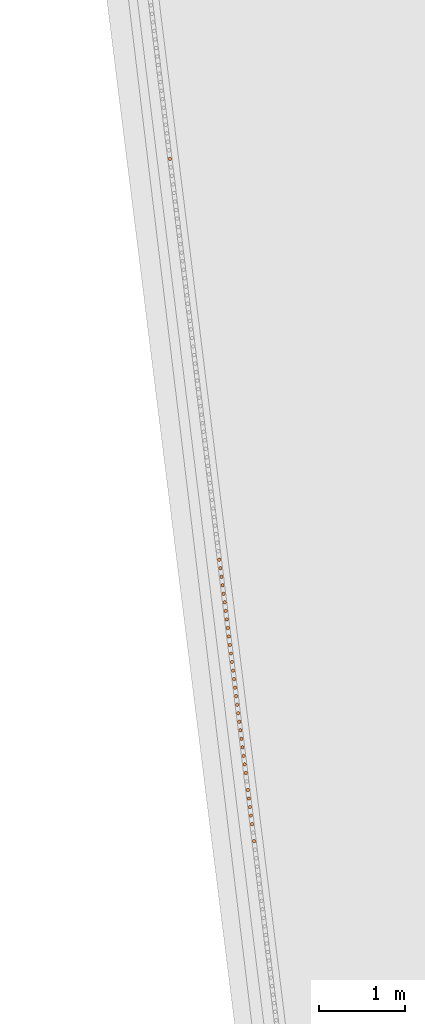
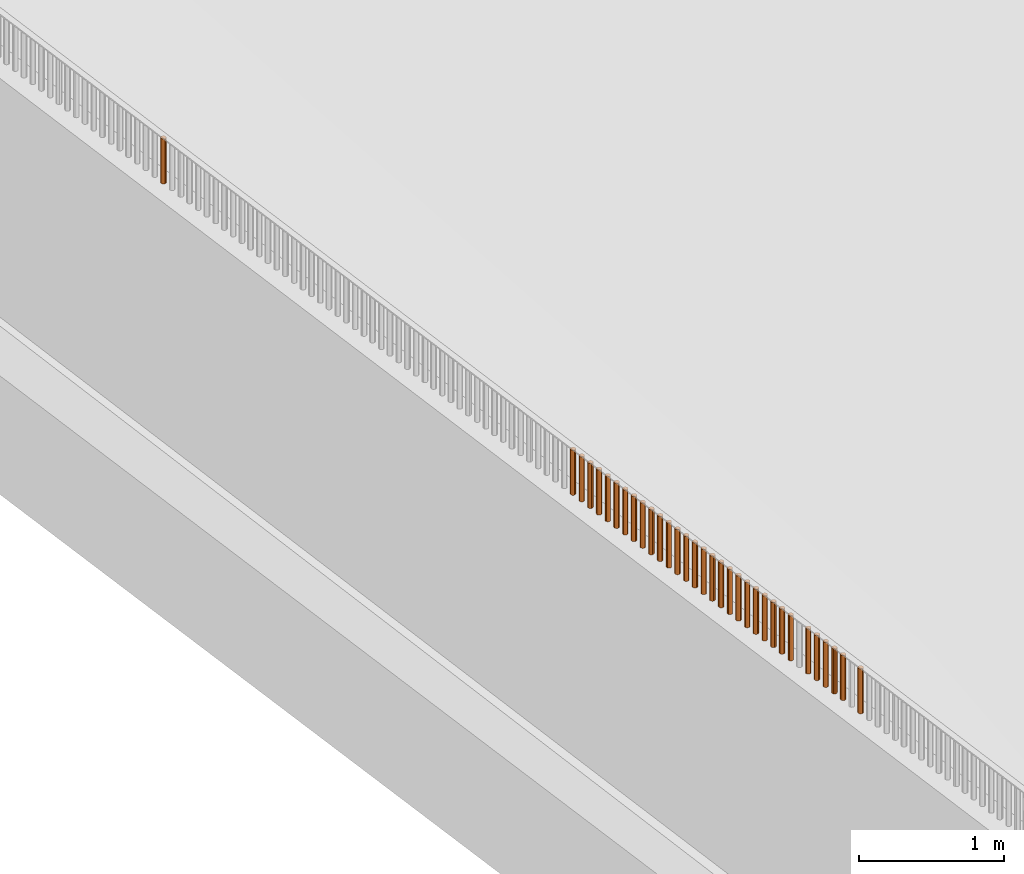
# One storey, part 229 of 1809: 33 proxies, 1 element without a shape of its own.
"""IFC2X3 building model written with IfcOpenShell, lengths in millimetres."""

from ifc_helpers import new_model, entity, si_unit, converted_unit, derived_unit, money_unit, direction, frame, origin_with_axes, place, context, subcontext, project, spatial, faceted_brep, source, transform, mapped, material, type_object, element, aggregate, save


model = new_model("IFC2X3")

# Units and contexts
model_context = context("Model", 3, precision=0.01, world=origin_with_axes(), true_north=direction((0.0, 1.0)))
body_context = subcontext(model_context, "Body", "Model", "MODEL_VIEW")
ifc_project = project(units=[si_unit("LENGTHUNIT", "METRE", prefix="MILLI"), si_unit("AREAUNIT", "SQUARE_METRE"), si_unit("VOLUMEUNIT", "CUBIC_METRE"), converted_unit("PLANEANGLEUNIT", "DEGREE", entity("IfcPlaneAngleMeasure", 0.0174532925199), si_unit("PLANEANGLEUNIT", "RADIAN"), dimensions=[0, 0, 0, 0, 0, 0, 0]), si_unit("SOLIDANGLEUNIT", "STERADIAN"), money_unit("EUR"), converted_unit("TIMEUNIT", "Year", entity("IfcTimeMeasure", 31556926.0), si_unit("TIMEUNIT", "SECOND"), dimensions=[0, 0, 1, 0, 0, 0, 0]), si_unit("MASSUNIT", "GRAM", prefix="KILO"), si_unit("THERMODYNAMICTEMPERATUREUNIT", "DEGREE_CELSIUS"), si_unit("LUMINOUSINTENSITYUNIT", "LUMEN"), si_unit("ENERGYUNIT", "JOULE", prefix="MEGA"), derived_unit("THERMALCONDUCTANCEUNIT", [(si_unit("POWERUNIT", "WATT"), 1), (si_unit("LENGTHUNIT", "METRE"), -1), (si_unit("THERMODYNAMICTEMPERATUREUNIT", "KELVIN"), -1)]), derived_unit("SPECIFICHEATCAPACITYUNIT", [(si_unit("ENERGYUNIT", "JOULE"), 1), (si_unit("MASSUNIT", "GRAM", prefix="KILO"), -1), (si_unit("THERMODYNAMICTEMPERATUREUNIT", "KELVIN"), -1)]), derived_unit("MASSDENSITYUNIT", [(si_unit("MASSUNIT", "GRAM", prefix="KILO"), 1), (si_unit("VOLUMEUNIT", "CUBIC_METRE"), -1)])], contexts=[model_context])

# Site, building, storey
site_placement = place(None, origin_with_axes())
site = spatial("IfcSite", under=ifc_project, at=site_placement, Name="Politse- ja Piirivalveameti ning Päästeameti ühishoone", CompositionType="ELEMENT")
building_placement = place(site_placement, origin_with_axes())
building = spatial("IfcBuilding", under=site, at=building_placement, Name="Politse- ja Piirivalveameti ning Päästeameti ühishoone", CompositionType="ELEMENT")
storey_placement = place(building_placement, origin_with_axes())
storey = spatial("IfcBuildingStorey", under=building, at=storey_placement, Name="Esimene korrus", CompositionType="ELEMENT", Elevation=0.0)

# Proxies
building_element_proxy_type_1 = type_object("IfcBuildingElementProxyType", Name="Railing Type", PredefinedType="NOTDEFINED")
proxy_1_placement = place(storey_placement, frame((-18956.5522504, -53688.4757966, 2100.0), z_axis=(0.0, 0.0, 1.0), x_axis=(1.0, 0.0, 0.0)))
proxy_1 = element("IfcBuildingElementProxy", 1, at=proxy_1_placement, inside=storey, type_object=building_element_proxy_type_1, Name="PIIRDEAED")
ifc_material = material(Name="ET-06_Teras - Konstruktsioon")
building_element_proxy_type_2 = type_object("IfcBuildingElementProxyType", Name="IfcBuildingElementProxy", PredefinedType="NOTDEFINED")
shared_shape_1 = source(origin_with_axes(), body_context, "Body", "Brep", [
    faceted_brep([(0.0, -20.0, 0.0), (3.47296355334, -19.6961550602, 0.0), (3.47296355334, -19.6961550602, 380.000012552), (0.0, -20.0, 380.000012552), (-3.47296355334, -19.6961550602, 0.0), (-6.84040286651, -18.7938524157, 0.0), (-10.0, -17.3205080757, 0.0), (-12.8557521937, -15.3208888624, 0.0), (-15.3208888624, -12.8557521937, 0.0), (-17.3205080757, -10.0, 0.0), (-18.7938524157, -6.84040286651, 0.0), (-19.6961550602, -3.47296355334, 0.0), (-20.0, 0.0, 0.0), (-19.6961550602, 3.47296355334, 0.0), (-18.7938524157, 6.84040286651, 0.0), (-17.3205080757, 10.0, 0.0), (-15.3208888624, 12.8557521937, 0.0), (-12.8557521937, 15.3208888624, 0.0), (-10.0, 17.3205080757, 0.0), (-6.84040286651, 18.7938524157, 0.0), (-3.47296355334, 19.6961550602, 0.0), (0.0, 20.0, 0.0), (3.47296355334, 19.6961550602, 0.0), (6.84040286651, 18.7938524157, 0.0), (10.0, 17.3205080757, 0.0), (12.8557521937, 15.3208888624, 0.0), (15.3208888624, 12.8557521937, 0.0), (17.3205080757, 10.0, 0.0), (18.7938524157, 6.84040286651, 0.0), (19.6961550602, 3.47296355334, 0.0), (20.0, 0.0, 0.0), (19.6961550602, -3.47296355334, 0.0), (18.7938524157, -6.84040286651, 0.0), (17.3205080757, -10.0, 0.0), (15.3208888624, -12.8557521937, 0.0), (12.8557521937, -15.3208888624, 0.0), (10.0, -17.3205080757, 0.0), (6.84040286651, -18.7938524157, 0.0), (6.84040286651, -18.7938524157, 380.000012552), (10.0, -17.3205080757, 380.000012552), (12.8557521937, -15.3208888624, 380.000012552), (15.3208888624, -12.8557521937, 380.000012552), (17.3205080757, -10.0, 380.000012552), (18.7938524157, -6.84040286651, 380.000012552), (19.6961550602, -3.47296355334, 380.000012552), (20.0, 0.0, 380.000012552), (19.6961550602, 3.47296355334, 380.000012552), (18.7938524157, 6.84040286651, 380.000012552), (17.3205080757, 10.0, 380.000012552), (15.3208888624, 12.8557521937, 380.000012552), (12.8557521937, 15.3208888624, 380.000012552), (10.0, 17.3205080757, 380.000012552), (6.84040286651, 18.7938524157, 380.000012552), (3.47296355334, 19.6961550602, 380.000012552), (0.0, 20.0, 380.000012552), (-3.47296355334, 19.6961550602, 380.000012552), (-6.84040286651, 18.7938524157, 380.000012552), (-10.0, 17.3205080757, 380.000012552), (-12.8557521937, 15.3208888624, 380.000012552), (-15.3208888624, 12.8557521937, 380.000012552), (-17.3205080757, 10.0, 380.000012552), (-18.7938524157, 6.84040286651, 380.000012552), (-19.6961550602, 3.47296355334, 380.000012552), (-20.0, 0.0, 380.000012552), (-19.6961550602, -3.47296355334, 380.000012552), (-18.7938524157, -6.84040286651, 380.000012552), (-17.3205080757, -10.0, 380.000012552), (-15.3208888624, -12.8557521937, 380.000012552), (-12.8557521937, -15.3208888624, 380.000012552), (-10.0, -17.3205080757, 380.000012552), (-6.84040286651, -18.7938524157, 380.000012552), (-3.47296355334, -19.6961550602, 380.000012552)], [[[0, 1, 2, 3]], [[0, 4, 5, 6, 7, 8, 9, 10, 11, 12, 13, 14, 15, 16, 17, 18, 19, 20, 21, 22, 23, 24, 25, 26, 27, 28, 29, 30, 31, 32, 33, 34, 35, 36, 37, 1]], [[1, 37, 38, 2]], [[3, 2, 38, 39, 40, 41, 42, 43, 44, 45, 46, 47, 48, 49, 50, 51, 52, 53, 54, 55, 56, 57, 58, 59, 60, 61, 62, 63, 64, 65, 66, 67, 68, 69, 70, 71]], [[4, 0, 3, 71]], [[5, 4, 71, 70]], [[6, 5, 70, 69]], [[7, 6, 69, 68]], [[8, 7, 68, 67]], [[9, 8, 67, 66]], [[10, 9, 66, 65]], [[11, 10, 65, 64]], [[12, 11, 64, 63]], [[13, 12, 63, 62]], [[14, 13, 62, 61]], [[15, 14, 61, 60]], [[16, 15, 60, 59]], [[17, 16, 59, 58]], [[18, 17, 58, 57]], [[19, 18, 57, 56]], [[20, 19, 56, 55]], [[21, 20, 55, 54]], [[22, 21, 54, 53]], [[23, 22, 53, 52]], [[24, 23, 52, 51]], [[25, 24, 51, 50]], [[26, 25, 50, 49]], [[27, 26, 49, 48]], [[28, 27, 48, 47]], [[29, 28, 47, 46]], [[30, 29, 46, 45]], [[31, 30, 45, 44]], [[32, 31, 44, 43]], [[33, 32, 43, 42]], [[34, 33, 42, 41]], [[35, 34, 41, 40]], [[36, 35, 40, 39]], [[37, 36, 39, 38]]]),
])
proxy_2_placement = place(proxy_1_placement, frame((-6020.91202067, 47944.554255, -1.25517001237e-05), z_axis=(0.0, 0.0, 1.0), x_axis=(1.0, 0.0, 0.0)))
proxy_2 = element("IfcBuildingElementProxy", 2, at=proxy_2_placement, type_object=building_element_proxy_type_2, material=ifc_material, Name="BALUSTER - 001", context=body_context, shape_type="MappedRepresentation", body=[
    mapped(shared_shape_1, transform((0.0, 0.0, 0.0), x_axis=(0.992468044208, 0.122503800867, 0.0), y_axis=(-0.122503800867, 0.992468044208, 0.0), z_axis=(0.0, 0.0, 1.0))),
])
proxy_3_placement = place(proxy_1_placement, frame((-6045.4074305, 48143.0045179, -1.25517001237e-05), z_axis=(0.0, 0.0, 1.0), x_axis=(1.0, 0.0, 0.0)))
proxy_3 = element("IfcBuildingElementProxy", 3, at=proxy_3_placement, type_object=building_element_proxy_type_2, material=ifc_material, Name="BALUSTER - 001", context=body_context, shape_type="MappedRepresentation", body=[
    mapped(shared_shape_1, transform((0.0, 0.0, 0.0), x_axis=(0.992468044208, 0.122503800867, 0.0), y_axis=(-0.122503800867, 0.992468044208, 0.0), z_axis=(0.0, 0.0, 1.0))),
])
proxy_4_placement = place(proxy_1_placement, frame((-6057.65513541, 48242.2296493, -1.25517001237e-05), z_axis=(0.0, 0.0, 1.0), x_axis=(1.0, 0.0, 0.0)))
proxy_4 = element("IfcBuildingElementProxy", 4, at=proxy_4_placement, type_object=building_element_proxy_type_2, material=ifc_material, Name="BALUSTER - 001", context=body_context, shape_type="MappedRepresentation", body=[
    mapped(shared_shape_1, transform((0.0, 0.0, 0.0), x_axis=(0.992468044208, 0.122503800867, 0.0), y_axis=(-0.122503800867, 0.992468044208, 0.0), z_axis=(0.0, 0.0, 1.0))),
])
proxy_5_placement = place(proxy_1_placement, frame((-6069.90284032, 48341.4547807, -1.25517001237e-05), z_axis=(0.0, 0.0, 1.0), x_axis=(1.0, 0.0, 0.0)))
proxy_5 = element("IfcBuildingElementProxy", 5, at=proxy_5_placement, type_object=building_element_proxy_type_2, material=ifc_material, Name="BALUSTER - 001", context=body_context, shape_type="MappedRepresentation", body=[
    mapped(shared_shape_1, transform((0.0, 0.0, 0.0), x_axis=(0.992468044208, 0.122503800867, 0.0), y_axis=(-0.122503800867, 0.992468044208, 0.0), z_axis=(0.0, 0.0, 1.0))),
])
proxy_6_placement = place(proxy_1_placement, frame((-6094.39825015, 48539.9050436, -1.25517001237e-05), z_axis=(0.0, 0.0, 1.0), x_axis=(1.0, 0.0, 0.0)))
proxy_6 = element("IfcBuildingElementProxy", 6, at=proxy_6_placement, type_object=building_element_proxy_type_2, material=ifc_material, Name="BALUSTER - 001", context=body_context, shape_type="MappedRepresentation", body=[
    mapped(shared_shape_1, transform((0.0, 0.0, 0.0), x_axis=(0.992468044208, 0.122503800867, 0.0), y_axis=(-0.122503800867, 0.992468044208, 0.0), z_axis=(0.0, 0.0, 1.0))),
])
proxy_7_placement = place(proxy_1_placement, frame((-6180.13218454, 49234.4809635, -1.25517001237e-05), z_axis=(0.0, 0.0, 1.0), x_axis=(1.0, 0.0, 0.0)))
proxy_7 = element("IfcBuildingElementProxy", 7, at=proxy_7_placement, type_object=building_element_proxy_type_2, material=ifc_material, Name="BALUSTER - 001", context=body_context, shape_type="MappedRepresentation", body=[
    mapped(shared_shape_1, transform((0.0, 0.0, 0.0), x_axis=(0.992468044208, 0.122503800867, 0.0), y_axis=(-0.122503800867, 0.992468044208, 0.0), z_axis=(0.0, 0.0, 1.0))),
])
proxy_8_placement = place(proxy_1_placement, frame((-6204.62759437, 49432.9312264, -1.25517001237e-05), z_axis=(0.0, 0.0, 1.0), x_axis=(1.0, 0.0, 0.0)))
proxy_8 = element("IfcBuildingElementProxy", 8, at=proxy_8_placement, type_object=building_element_proxy_type_2, material=ifc_material, Name="BALUSTER - 001", context=body_context, shape_type="MappedRepresentation", body=[
    mapped(shared_shape_1, transform((0.0, 0.0, 0.0), x_axis=(0.992468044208, 0.122503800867, 0.0), y_axis=(-0.122503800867, 0.992468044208, 0.0), z_axis=(0.0, 0.0, 1.0))),
])
proxy_9_placement = place(proxy_1_placement, frame((-6229.12300419, 49631.3814892, -1.25517001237e-05), z_axis=(0.0, 0.0, 1.0), x_axis=(1.0, 0.0, 0.0)))
proxy_9 = element("IfcBuildingElementProxy", 9, at=proxy_9_placement, type_object=building_element_proxy_type_2, material=ifc_material, Name="BALUSTER - 001", context=body_context, shape_type="MappedRepresentation", body=[
    mapped(shared_shape_1, transform((0.0, 0.0, 0.0), x_axis=(0.992468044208, 0.122503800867, 0.0), y_axis=(-0.122503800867, 0.992468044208, 0.0), z_axis=(0.0, 0.0, 1.0))),
])
proxy_10_placement = place(proxy_1_placement, frame((-6241.37070911, 49730.6066207, -1.25517001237e-05), z_axis=(0.0, 0.0, 1.0), x_axis=(1.0, 0.0, 0.0)))
proxy_10 = element("IfcBuildingElementProxy", 10, at=proxy_10_placement, type_object=building_element_proxy_type_2, material=ifc_material, Name="BALUSTER - 001", context=body_context, shape_type="MappedRepresentation", body=[
    mapped(shared_shape_1, transform((0.0, 0.0, 0.0), x_axis=(0.992468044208, 0.122503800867, 0.0), y_axis=(-0.122503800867, 0.992468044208, 0.0), z_axis=(0.0, 0.0, 1.0))),
])
proxy_11_placement = place(proxy_1_placement, frame((-6253.61841402, 49829.8317521, -1.25517001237e-05), z_axis=(0.0, 0.0, 1.0), x_axis=(1.0, 0.0, 0.0)))
proxy_11 = element("IfcBuildingElementProxy", 11, at=proxy_11_placement, type_object=building_element_proxy_type_2, material=ifc_material, Name="BALUSTER - 001", context=body_context, shape_type="MappedRepresentation", body=[
    mapped(shared_shape_1, transform((0.0, 0.0, 0.0), x_axis=(0.992468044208, 0.122503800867, 0.0), y_axis=(-0.122503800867, 0.992468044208, 0.0), z_axis=(0.0, 0.0, 1.0))),
])
proxy_12_placement = place(proxy_1_placement, frame((-6278.11382385, 50028.2820149, -1.25517001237e-05), z_axis=(0.0, 0.0, 1.0), x_axis=(1.0, 0.0, 0.0)))
proxy_12 = element("IfcBuildingElementProxy", 12, at=proxy_12_placement, type_object=building_element_proxy_type_2, material=ifc_material, Name="BALUSTER - 001", context=body_context, shape_type="MappedRepresentation", body=[
    mapped(shared_shape_1, transform((0.0, 0.0, 0.0), x_axis=(0.992468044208, 0.122503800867, 0.0), y_axis=(-0.122503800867, 0.992468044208, 0.0), z_axis=(0.0, 0.0, 1.0))),
])
proxy_13_placement = place(proxy_1_placement, frame((-6363.84775824, 50722.8579349, -1.25517001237e-05), z_axis=(0.0, 0.0, 1.0), x_axis=(1.0, 0.0, 0.0)))
proxy_13 = element("IfcBuildingElementProxy", 13, at=proxy_13_placement, type_object=building_element_proxy_type_2, material=ifc_material, Name="BALUSTER - 001", context=body_context, shape_type="MappedRepresentation", body=[
    mapped(shared_shape_1, transform((0.0, 0.0, 0.0), x_axis=(0.992468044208, 0.122503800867, 0.0), y_axis=(-0.122503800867, 0.992468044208, 0.0), z_axis=(0.0, 0.0, 1.0))),
])
proxy_14_placement = place(proxy_1_placement, frame((-6376.09546315, 50822.0830663, -1.25517001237e-05), z_axis=(0.0, 0.0, 1.0), x_axis=(1.0, 0.0, 0.0)))
proxy_14 = element("IfcBuildingElementProxy", 14, at=proxy_14_placement, type_object=building_element_proxy_type_2, material=ifc_material, Name="BALUSTER - 001", context=body_context, shape_type="MappedRepresentation", body=[
    mapped(shared_shape_1, transform((0.0, 0.0, 0.0), x_axis=(0.992468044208, 0.122503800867, 0.0), y_axis=(-0.122503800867, 0.992468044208, 0.0), z_axis=(0.0, 0.0, 1.0))),
])
proxy_15_placement = place(proxy_1_placement, frame((-6388.34316806, 50921.3081978, -1.25517001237e-05), z_axis=(0.0, 0.0, 1.0), x_axis=(1.0, 0.0, 0.0)))
proxy_15 = element("IfcBuildingElementProxy", 15, at=proxy_15_placement, type_object=building_element_proxy_type_2, material=ifc_material, Name="BALUSTER - 001", context=body_context, shape_type="MappedRepresentation", body=[
    mapped(shared_shape_1, transform((0.0, 0.0, 0.0), x_axis=(0.992468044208, 0.122503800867, 0.0), y_axis=(-0.122503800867, 0.992468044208, 0.0), z_axis=(0.0, 0.0, 1.0))),
])
proxy_16_placement = place(proxy_1_placement, frame((-6400.59087298, 51020.5333292, -1.25517001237e-05), z_axis=(0.0, 0.0, 1.0), x_axis=(1.0, 0.0, 0.0)))
proxy_16 = element("IfcBuildingElementProxy", 16, at=proxy_16_placement, type_object=building_element_proxy_type_2, material=ifc_material, Name="BALUSTER - 001", context=body_context, shape_type="MappedRepresentation", body=[
    mapped(shared_shape_1, transform((0.0, 0.0, 0.0), x_axis=(0.992468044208, 0.122503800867, 0.0), y_axis=(-0.122503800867, 0.992468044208, 0.0), z_axis=(0.0, 0.0, 1.0))),
])
proxy_17_placement = place(proxy_1_placement, frame((-6412.83857789, 51119.7584606, -1.25517001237e-05), z_axis=(0.0, 0.0, 1.0), x_axis=(1.0, 0.0, 0.0)))
proxy_17 = element("IfcBuildingElementProxy", 17, at=proxy_17_placement, type_object=building_element_proxy_type_2, material=ifc_material, Name="BALUSTER - 001", context=body_context, shape_type="MappedRepresentation", body=[
    mapped(shared_shape_1, transform((0.0, 0.0, 0.0), x_axis=(0.992468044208, 0.122503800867, 0.0), y_axis=(-0.122503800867, 0.992468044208, 0.0), z_axis=(0.0, 0.0, 1.0))),
])
shared_shape_2 = source(origin_with_axes(), body_context, "Body", "Brep", [
    faceted_brep([(0.0, -20.0, 0.0), (3.47296355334, -19.6961550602, 0.0), (3.47296355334, -19.6961550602, 380.000012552), (0.0, -20.0, 380.000012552), (-3.47296355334, -19.6961550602, 0.0), (-6.84040286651, -18.7938524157, 0.0), (-10.0, -17.3205080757, 0.0), (-12.8557521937, -15.3208888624, 0.0), (-15.3208888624, -12.8557521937, 0.0), (-17.3205080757, -10.0, 0.0), (-18.7938524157, -6.84040286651, 0.0), (-19.6961550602, -3.47296355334, 0.0), (-20.0, 0.0, 0.0), (-19.6961550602, 3.47296355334, 0.0), (-18.7938524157, 6.84040286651, 0.0), (-17.3205080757, 10.0, 0.0), (-15.3208888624, 12.8557521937, 0.0), (-12.8557521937, 15.3208888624, 0.0), (-10.0, 17.3205080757, 0.0), (-6.84040286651, 18.7938524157, 0.0), (-3.47296355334, 19.6961550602, 0.0), (0.0, 20.0, 0.0), (3.47296355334, 19.6961550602, 0.0), (6.84040286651, 18.7938524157, 0.0), (10.0, 17.3205080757, 0.0), (12.8557521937, 15.3208888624, 0.0), (15.3208888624, 12.8557521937, 0.0), (17.3205080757, 10.0, 0.0), (18.7938524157, 6.84040286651, 0.0), (19.6961550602, 3.47296355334, 0.0), (20.0, 0.0, 0.0), (19.6961550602, -3.47296355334, 0.0), (18.7938524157, -6.84040286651, 0.0), (17.3205080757, -10.0, 0.0), (15.3208888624, -12.8557521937, 0.0), (12.8557521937, -15.3208888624, 0.0), (10.0, -17.3205080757, 0.0), (6.84040286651, -18.7938524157, 0.0), (6.84040286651, -18.7938524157, 380.000012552), (10.0, -17.3205080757, 380.000012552), (12.8557521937, -15.3208888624, 380.000012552), (15.3208888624, -12.8557521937, 380.000012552), (17.3205080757, -10.0, 380.000012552), (18.7938524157, -6.84040286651, 380.000012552), (19.6961550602, -3.47296355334, 380.000012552), (20.0, 0.0, 380.000012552), (19.6961550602, 3.47296355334, 380.000012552), (18.7938524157, 6.84040286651, 380.000012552), (17.3205080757, 10.0, 380.000012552), (15.3208888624, 12.8557521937, 380.000012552), (12.8557521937, 15.3208888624, 380.000012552), (10.0, 17.3205080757, 380.000012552), (6.84040286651, 18.7938524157, 380.000012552), (3.47296355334, 19.6961550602, 380.000012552), (0.0, 20.0, 380.000012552), (-3.47296355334, 19.6961550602, 380.000012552), (-6.84040286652, 18.7938524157, 380.000012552), (-10.0, 17.3205080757, 380.000012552), (-12.8557521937, 15.3208888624, 380.000012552), (-15.3208888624, 12.8557521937, 380.000012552), (-17.3205080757, 10.0, 380.000012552), (-18.7938524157, 6.84040286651, 380.000012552), (-19.6961550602, 3.47296355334, 380.000012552), (-20.0, 0.0, 380.000012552), (-19.6961550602, -3.47296355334, 380.000012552), (-18.7938524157, -6.84040286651, 380.000012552), (-17.3205080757, -10.0, 380.000012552), (-15.3208888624, -12.8557521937, 380.000012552), (-12.8557521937, -15.3208888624, 380.000012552), (-10.0, -17.3205080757, 380.000012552), (-6.84040286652, -18.7938524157, 380.000012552), (-3.47296355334, -19.6961550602, 380.000012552)], [[[0, 1, 2, 3]], [[0, 4, 5, 6, 7, 8, 9, 10, 11, 12, 13, 14, 15, 16, 17, 18, 19, 20, 21, 22, 23, 24, 25, 26, 27, 28, 29, 30, 31, 32, 33, 34, 35, 36, 37, 1]], [[1, 37, 38, 2]], [[3, 2, 38, 39, 40, 41, 42, 43, 44, 45, 46, 47, 48, 49, 50, 51, 52, 53, 54, 55, 56, 57, 58, 59, 60, 61, 62, 63, 64, 65, 66, 67, 68, 69, 70, 71]], [[4, 0, 3, 71]], [[5, 4, 71, 70]], [[6, 5, 70, 69]], [[7, 6, 69, 68]], [[8, 7, 68, 67]], [[9, 8, 67, 66]], [[10, 9, 66, 65]], [[11, 10, 65, 64]], [[12, 11, 64, 63]], [[13, 12, 63, 62]], [[14, 13, 62, 61]], [[15, 14, 61, 60]], [[16, 15, 60, 59]], [[17, 16, 59, 58]], [[18, 17, 58, 57]], [[19, 18, 57, 56]], [[20, 19, 56, 55]], [[21, 20, 55, 54]], [[22, 21, 54, 53]], [[23, 22, 53, 52]], [[24, 23, 52, 51]], [[25, 24, 51, 50]], [[26, 25, 50, 49]], [[27, 26, 49, 48]], [[28, 27, 48, 47]], [[29, 28, 47, 46]], [[30, 29, 46, 45]], [[31, 30, 45, 44]], [[32, 31, 44, 43]], [[33, 32, 43, 42]], [[34, 33, 42, 41]], [[35, 34, 41, 40]], [[36, 35, 40, 39]], [[37, 36, 39, 38]]]),
])
proxy_18_placement = place(proxy_1_placement, frame((-7000.72841372, 55882.564769, -1.25517001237e-05), z_axis=(0.0, 0.0, 1.0), x_axis=(1.0, 0.0, 0.0)))
proxy_18 = element("IfcBuildingElementProxy", 18, at=proxy_18_placement, type_object=building_element_proxy_type_2, material=ifc_material, Name="BALUSTER - 001", context=body_context, shape_type="MappedRepresentation", body=[
    mapped(shared_shape_2, transform((0.0, 0.0, 0.0), x_axis=(0.992468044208, 0.122503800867, 0.0), y_axis=(-0.122503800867, 0.992468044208, 0.0), z_axis=(0.0, 0.0, 1.0))),
])
shared_shape_3 = source(origin_with_axes(), body_context, "Body", "Brep", [
    faceted_brep([(0.0, -20.0, 0.0), (3.47296355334, -19.6961550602, 0.0), (3.47296355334, -19.6961550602, 380.000012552), (0.0, -20.0, 380.000012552), (-3.47296355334, -19.6961550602, 0.0), (-6.84040286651, -18.7938524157, 0.0), (-10.0, -17.3205080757, 0.0), (-12.8557521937, -15.3208888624, 0.0), (-15.3208888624, -12.8557521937, 0.0), (-17.3205080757, -10.0, 0.0), (-18.7938524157, -6.84040286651, 0.0), (-19.6961550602, -3.47296355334, 0.0), (-20.0, 0.0, 0.0), (-19.6961550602, 3.47296355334, 0.0), (-18.7938524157, 6.84040286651, 0.0), (-17.3205080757, 10.0, 0.0), (-15.3208888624, 12.8557521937, 0.0), (-12.8557521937, 15.3208888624, 0.0), (-10.0, 17.3205080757, 0.0), (-6.84040286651, 18.7938524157, 0.0), (-3.47296355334, 19.6961550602, 0.0), (0.0, 20.0, 0.0), (3.47296355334, 19.6961550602, 0.0), (6.84040286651, 18.7938524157, 0.0), (10.0, 17.3205080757, 0.0), (12.8557521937, 15.3208888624, 0.0), (15.3208888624, 12.8557521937, 0.0), (17.3205080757, 10.0, 0.0), (18.7938524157, 6.84040286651, 0.0), (19.6961550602, 3.47296355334, 0.0), (20.0, 0.0, 0.0), (19.6961550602, -3.47296355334, 0.0), (18.7938524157, -6.84040286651, 0.0), (17.3205080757, -10.0, 0.0), (15.3208888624, -12.8557521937, 0.0), (12.8557521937, -15.3208888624, 0.0), (10.0, -17.3205080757, 0.0), (6.84040286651, -18.7938524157, 0.0), (6.84040286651, -18.7938524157, 380.000012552), (10.0, -17.3205080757, 380.000012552), (12.8557521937, -15.3208888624, 380.000012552), (15.3208888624, -12.8557521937, 380.000012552), (17.3205080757, -10.0, 380.000012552), (18.7938524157, -6.84040286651, 380.000012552), (19.6961550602, -3.47296355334, 380.000012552), (20.0, 0.0, 380.000012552), (19.6961550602, 3.47296355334, 380.000012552), (18.7938524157, 6.84040286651, 380.000012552), (17.3205080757, 10.0, 380.000012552), (15.3208888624, 12.8557521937, 380.000012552), (12.8557521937, 15.3208888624, 380.000012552), (10.0, 17.3205080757, 380.000012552), (6.84040286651, 18.7938524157, 380.000012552), (3.47296355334, 19.6961550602, 380.000012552), (0.0, 20.0, 380.000012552), (-3.47296355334, 19.6961550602, 380.000012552), (-6.84040286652, 18.7938524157, 380.000012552), (-10.0, 17.3205080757, 380.000012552), (-12.8557521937, 15.3208888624, 380.000012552), (-15.3208888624, 12.8557521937, 380.000012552), (-17.3205080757, 10.0, 380.000012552), (-18.7938524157, 6.84040286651, 380.000012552), (-19.6961550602, 3.47296355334, 380.000012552), (-20.0, 0.0, 380.000012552), (-19.6961550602, -3.47296355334, 380.000012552), (-18.7938524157, -6.84040286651, 380.000012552), (-17.3205080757, -10.0, 380.000012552), (-15.3208888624, -12.8557521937, 380.000012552), (-12.8557521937, -15.3208888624, 380.000012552), (-10.0, -17.3205080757, 380.000012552), (-6.84040286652, -18.7938524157, 380.000012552), (-3.47296355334, -19.6961550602, 380.000012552)], [[[0, 1, 2, 3]], [[0, 4, 5, 6, 7, 8, 9, 10, 11, 12, 13, 14, 15, 16, 17, 18, 19, 20, 21, 22, 23, 24, 25, 26, 27, 28, 29, 30, 31, 32, 33, 34, 35, 36, 37, 1]], [[1, 37, 38, 2]], [[3, 2, 38, 39, 40, 41, 42, 43, 44, 45, 46, 47, 48, 49, 50, 51, 52, 53, 54, 55, 56, 57, 58, 59, 60, 61, 62, 63, 64, 65, 66, 67, 68, 69, 70, 71]], [[4, 0, 3, 71]], [[5, 4, 71, 70]], [[6, 5, 70, 69]], [[7, 6, 69, 68]], [[8, 7, 68, 67]], [[9, 8, 67, 66]], [[10, 9, 66, 65]], [[11, 10, 65, 64]], [[12, 11, 64, 63]], [[13, 12, 63, 62]], [[14, 13, 62, 61]], [[15, 14, 61, 60]], [[16, 15, 60, 59]], [[17, 16, 59, 58]], [[18, 17, 58, 57]], [[19, 18, 57, 56]], [[20, 19, 56, 55]], [[21, 20, 55, 54]], [[22, 21, 54, 53]], [[23, 22, 53, 52]], [[24, 23, 52, 51]], [[25, 24, 51, 50]], [[26, 25, 50, 49]], [[27, 26, 49, 48]], [[28, 27, 48, 47]], [[29, 28, 47, 46]], [[30, 29, 46, 45]], [[31, 30, 45, 44]], [[32, 31, 44, 43]], [[33, 32, 43, 42]], [[34, 33, 42, 41]], [[35, 34, 41, 40]], [[36, 35, 40, 39]], [[37, 36, 39, 38]]]),
])
proxy_19_placement = place(proxy_1_placement, frame((-6082.15054524, 48440.6799121, -1.25517001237e-05), z_axis=(0.0, 0.0, 1.0), x_axis=(1.0, 0.0, 0.0)))
proxy_19 = element("IfcBuildingElementProxy", 19, at=proxy_19_placement, type_object=building_element_proxy_type_2, material=ifc_material, Name="BALUSTER - 001", context=body_context, shape_type="MappedRepresentation", body=[
    mapped(shared_shape_3, transform((0.0, 0.0, 0.0), x_axis=(0.992468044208, 0.122503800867, 0.0), y_axis=(-0.122503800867, 0.992468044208, 0.0), z_axis=(0.0, 0.0, 1.0))),
])
proxy_20_placement = place(proxy_1_placement, frame((-6118.89365998, 48738.3553064, -1.25517001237e-05), z_axis=(0.0, 0.0, 1.0), x_axis=(1.0, 0.0, 0.0)))
proxy_20 = element("IfcBuildingElementProxy", 20, at=proxy_20_placement, type_object=building_element_proxy_type_2, material=ifc_material, Name="BALUSTER - 001", context=body_context, shape_type="MappedRepresentation", body=[
    mapped(shared_shape_3, transform((0.0, 0.0, 0.0), x_axis=(0.992468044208, 0.122503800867, 0.0), y_axis=(-0.122503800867, 0.992468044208, 0.0), z_axis=(0.0, 0.0, 1.0))),
])
proxy_21_placement = place(proxy_1_placement, frame((-6131.14136489, 48837.5804378, -1.25517001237e-05), z_axis=(0.0, 0.0, 1.0), x_axis=(1.0, 0.0, 0.0)))
proxy_21 = element("IfcBuildingElementProxy", 21, at=proxy_21_placement, type_object=building_element_proxy_type_2, material=ifc_material, Name="BALUSTER - 001", context=body_context, shape_type="MappedRepresentation", body=[
    mapped(shared_shape_3, transform((0.0, 0.0, 0.0), x_axis=(0.992468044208, 0.122503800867, 0.0), y_axis=(-0.122503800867, 0.992468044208, 0.0), z_axis=(0.0, 0.0, 1.0))),
])
proxy_22_placement = place(proxy_1_placement, frame((-6143.3890698, 48936.8055693, -1.25517001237e-05), z_axis=(0.0, 0.0, 1.0), x_axis=(1.0, 0.0, 0.0)))
proxy_22 = element("IfcBuildingElementProxy", 22, at=proxy_22_placement, type_object=building_element_proxy_type_2, material=ifc_material, Name="BALUSTER - 001", context=body_context, shape_type="MappedRepresentation", body=[
    mapped(shared_shape_3, transform((0.0, 0.0, 0.0), x_axis=(0.992468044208, 0.122503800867, 0.0), y_axis=(-0.122503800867, 0.992468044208, 0.0), z_axis=(0.0, 0.0, 1.0))),
])
proxy_23_placement = place(proxy_1_placement, frame((-6155.63677472, 49036.0307007, -1.25517001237e-05), z_axis=(0.0, 0.0, 1.0), x_axis=(1.0, 0.0, 0.0)))
proxy_23 = element("IfcBuildingElementProxy", 23, at=proxy_23_placement, type_object=building_element_proxy_type_2, material=ifc_material, Name="BALUSTER - 001", context=body_context, shape_type="MappedRepresentation", body=[
    mapped(shared_shape_3, transform((0.0, 0.0, 0.0), x_axis=(0.992468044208, 0.122503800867, 0.0), y_axis=(-0.122503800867, 0.992468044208, 0.0), z_axis=(0.0, 0.0, 1.0))),
])
proxy_24_placement = place(proxy_1_placement, frame((-6167.88447963, 49135.2558321, -1.25517001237e-05), z_axis=(0.0, 0.0, 1.0), x_axis=(1.0, 0.0, 0.0)))
proxy_24 = element("IfcBuildingElementProxy", 24, at=proxy_24_placement, type_object=building_element_proxy_type_2, material=ifc_material, Name="BALUSTER - 001", context=body_context, shape_type="MappedRepresentation", body=[
    mapped(shared_shape_3, transform((0.0, 0.0, 0.0), x_axis=(0.992468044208, 0.122503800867, 0.0), y_axis=(-0.122503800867, 0.992468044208, 0.0), z_axis=(0.0, 0.0, 1.0))),
])
proxy_25_placement = place(proxy_1_placement, frame((-6192.37988945, 49333.706095, -1.25517001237e-05), z_axis=(0.0, 0.0, 1.0), x_axis=(1.0, 0.0, 0.0)))
proxy_25 = element("IfcBuildingElementProxy", 25, at=proxy_25_placement, type_object=building_element_proxy_type_2, material=ifc_material, Name="BALUSTER - 001", context=body_context, shape_type="MappedRepresentation", body=[
    mapped(shared_shape_3, transform((0.0, 0.0, 0.0), x_axis=(0.992468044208, 0.122503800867, 0.0), y_axis=(-0.122503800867, 0.992468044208, 0.0), z_axis=(0.0, 0.0, 1.0))),
])
proxy_26_placement = place(proxy_1_placement, frame((-6216.87529928, 49532.1563578, -1.25517001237e-05), z_axis=(0.0, 0.0, 1.0), x_axis=(1.0, 0.0, 0.0)))
proxy_26 = element("IfcBuildingElementProxy", 26, at=proxy_26_placement, type_object=building_element_proxy_type_2, material=ifc_material, Name="BALUSTER - 001", context=body_context, shape_type="MappedRepresentation", body=[
    mapped(shared_shape_3, transform((0.0, 0.0, 0.0), x_axis=(0.992468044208, 0.122503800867, 0.0), y_axis=(-0.122503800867, 0.992468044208, 0.0), z_axis=(0.0, 0.0, 1.0))),
])
proxy_27_placement = place(proxy_1_placement, frame((-6265.86611893, 49929.0568835, -1.25517001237e-05), z_axis=(0.0, 0.0, 1.0), x_axis=(1.0, 0.0, 0.0)))
proxy_27 = element("IfcBuildingElementProxy", 27, at=proxy_27_placement, type_object=building_element_proxy_type_2, material=ifc_material, Name="BALUSTER - 001", context=body_context, shape_type="MappedRepresentation", body=[
    mapped(shared_shape_3, transform((0.0, 0.0, 0.0), x_axis=(0.992468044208, 0.122503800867, 0.0), y_axis=(-0.122503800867, 0.992468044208, 0.0), z_axis=(0.0, 0.0, 1.0))),
])
proxy_28_placement = place(proxy_1_placement, frame((-6290.36152876, 50127.5071464, -1.25517001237e-05), z_axis=(0.0, 0.0, 1.0), x_axis=(1.0, 0.0, 0.0)))
proxy_28 = element("IfcBuildingElementProxy", 28, at=proxy_28_placement, type_object=building_element_proxy_type_2, material=ifc_material, Name="BALUSTER - 001", context=body_context, shape_type="MappedRepresentation", body=[
    mapped(shared_shape_3, transform((0.0, 0.0, 0.0), x_axis=(0.992468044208, 0.122503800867, 0.0), y_axis=(-0.122503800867, 0.992468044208, 0.0), z_axis=(0.0, 0.0, 1.0))),
])
proxy_29_placement = place(proxy_1_placement, frame((-6302.60923367, 50226.7322778, -1.25517001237e-05), z_axis=(0.0, 0.0, 1.0), x_axis=(1.0, 0.0, 0.0)))
proxy_29 = element("IfcBuildingElementProxy", 29, at=proxy_29_placement, type_object=building_element_proxy_type_2, material=ifc_material, Name="BALUSTER - 001", context=body_context, shape_type="MappedRepresentation", body=[
    mapped(shared_shape_3, transform((0.0, 0.0, 0.0), x_axis=(0.992468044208, 0.122503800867, 0.0), y_axis=(-0.122503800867, 0.992468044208, 0.0), z_axis=(0.0, 0.0, 1.0))),
])
proxy_30_placement = place(proxy_1_placement, frame((-6314.85693859, 50325.9574092, -1.25517001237e-05), z_axis=(0.0, 0.0, 1.0), x_axis=(1.0, 0.0, 0.0)))
proxy_30 = element("IfcBuildingElementProxy", 30, at=proxy_30_placement, type_object=building_element_proxy_type_2, material=ifc_material, Name="BALUSTER - 001", context=body_context, shape_type="MappedRepresentation", body=[
    mapped(shared_shape_3, transform((0.0, 0.0, 0.0), x_axis=(0.992468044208, 0.122503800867, 0.0), y_axis=(-0.122503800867, 0.992468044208, 0.0), z_axis=(0.0, 0.0, 1.0))),
])
proxy_31_placement = place(proxy_1_placement, frame((-6327.1046435, 50425.1825406, -1.25517001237e-05), z_axis=(0.0, 0.0, 1.0), x_axis=(1.0, 0.0, 0.0)))
proxy_31 = element("IfcBuildingElementProxy", 31, at=proxy_31_placement, type_object=building_element_proxy_type_2, material=ifc_material, Name="BALUSTER - 001", context=body_context, shape_type="MappedRepresentation", body=[
    mapped(shared_shape_3, transform((0.0, 0.0, 0.0), x_axis=(0.992468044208, 0.122503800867, 0.0), y_axis=(-0.122503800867, 0.992468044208, 0.0), z_axis=(0.0, 0.0, 1.0))),
])
proxy_32_placement = place(proxy_1_placement, frame((-6339.35234841, 50524.4076721, -1.25517001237e-05), z_axis=(0.0, 0.0, 1.0), x_axis=(1.0, 0.0, 0.0)))
proxy_32 = element("IfcBuildingElementProxy", 32, at=proxy_32_placement, type_object=building_element_proxy_type_2, material=ifc_material, Name="BALUSTER - 001", context=body_context, shape_type="MappedRepresentation", body=[
    mapped(shared_shape_3, transform((0.0, 0.0, 0.0), x_axis=(0.992468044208, 0.122503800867, 0.0), y_axis=(-0.122503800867, 0.992468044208, 0.0), z_axis=(0.0, 0.0, 1.0))),
])
proxy_33_placement = place(proxy_1_placement, frame((-6351.60005332, 50623.6328035, -1.25517001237e-05), z_axis=(0.0, 0.0, 1.0), x_axis=(1.0, 0.0, 0.0)))
proxy_33 = element("IfcBuildingElementProxy", 33, at=proxy_33_placement, type_object=building_element_proxy_type_2, material=ifc_material, Name="BALUSTER - 001", context=body_context, shape_type="MappedRepresentation", body=[
    mapped(shared_shape_3, transform((0.0, 0.0, 0.0), x_axis=(0.992468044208, 0.122503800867, 0.0), y_axis=(-0.122503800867, 0.992468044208, 0.0), z_axis=(0.0, 0.0, 1.0))),
])
proxy_34_placement = place(proxy_1_placement, frame((-6425.0862828, 51218.983592, -1.25517001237e-05), z_axis=(0.0, 0.0, 1.0), x_axis=(1.0, 0.0, 0.0)))
proxy_34 = element("IfcBuildingElementProxy", 34, at=proxy_34_placement, type_object=building_element_proxy_type_2, material=ifc_material, Name="BALUSTER - 001", context=body_context, shape_type="MappedRepresentation", body=[
    mapped(shared_shape_3, transform((0.0, 0.0, 0.0), x_axis=(0.992468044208, 0.122503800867, 0.0), y_axis=(-0.122503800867, 0.992468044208, 0.0), z_axis=(0.0, 0.0, 1.0))),
])
aggregate(proxy_1, [proxy_2, proxy_3, proxy_4, proxy_5, proxy_19, proxy_6, proxy_20, proxy_21, proxy_22, proxy_23, proxy_24, proxy_7, proxy_25, proxy_8, proxy_26, proxy_9, proxy_10, proxy_11, proxy_27, proxy_12, proxy_28, proxy_29, proxy_30, proxy_31, proxy_32, proxy_33, proxy_13, proxy_14, proxy_15, proxy_16, proxy_17, proxy_34, proxy_18])

save(model, "model.ifc")
